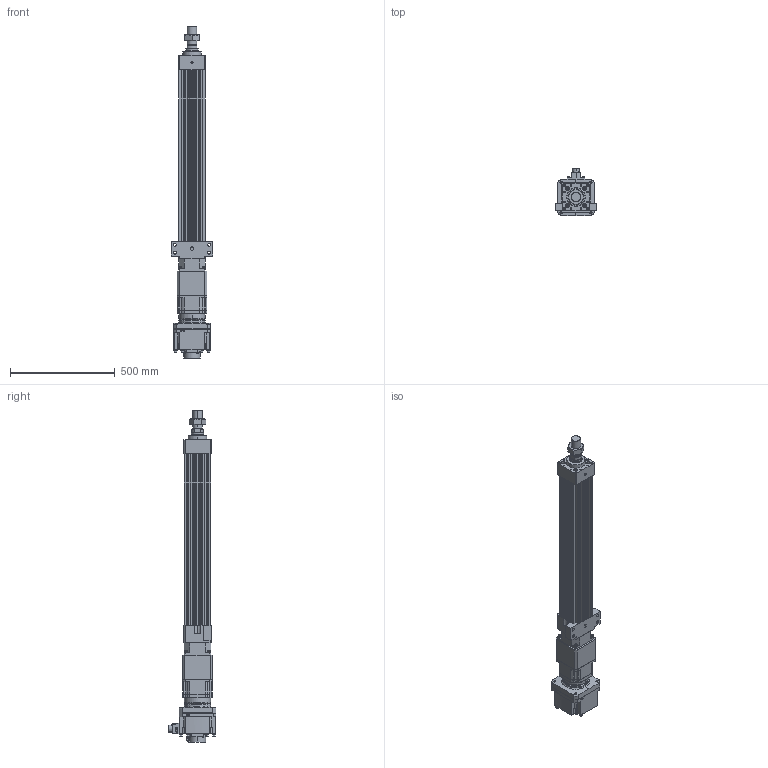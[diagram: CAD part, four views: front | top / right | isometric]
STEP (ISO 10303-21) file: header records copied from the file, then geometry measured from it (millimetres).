
FILE_DESCRIPTION (( 'STEP AP203' ), '1' );
FILE_NAME ('HES130FS(HS)-S600-W020G00-M-FFC.STEP', '2023-01-31T03:25:00', ( 'tms' ), ( '' ), 'SwSTEP 2.0', 'SolidWorks 2013', '' );
FILE_SCHEMA (( 'CONFIG_CONTROL_DESIGN' ));
Length unit declared in the file: millimetre
Products named in the file (9): HES130 ROD M ST600; P1301500001; M45X1.5P; AB1421; P0403500801; HES130-S600-G142-FFC; AB142-003[HG-SR352]; HG-SR202; HES130FS(HS)-S600-W020G00-M-FFC
Assembly tree (8 placements, depth 3):
  HES130FS(HS)-S600-W020G00-M-FFC
    HES130-S600-G142-FFC
    HES130 ROD M ST600
    M45X1.5P
    AB142-003[HG-SR352]
      AB1421
      P1301500001
      P0403500801
    HG-SR202
Bounding box: 200 x 228.85 x 1587.5 mm (x, y, z)
Volume: 13907673.9 mm3; surface area: 1824099.5 mm2
Topology: 4 solids, 22 shells, 1546 faces, 3982 edges, 2565 vertices
Faces by surface type: cylinder 694, plane 586, cone 184, bspline 76, torus 6
Entity records: 55838 total; most frequent: CARTESIAN_POINT 16862, DIRECTION 8160, ORIENTED_EDGE 7822, EDGE_CURVE 3933, AXIS2_PLACEMENT_3D 3080, VERTEX_POINT 2565, LINE 2000, VECTOR 2000
